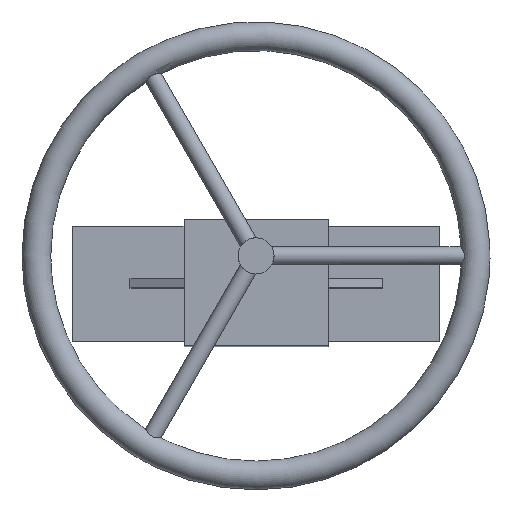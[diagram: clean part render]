
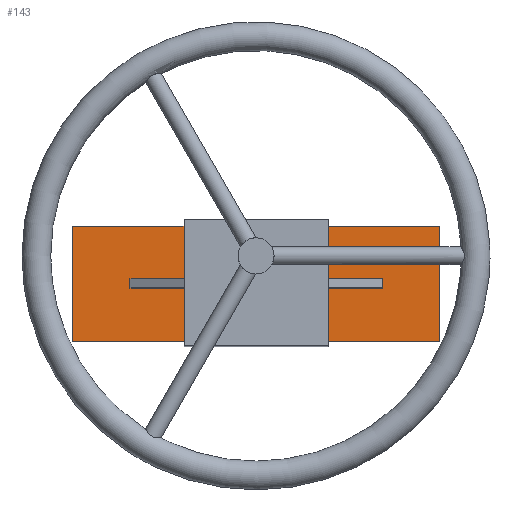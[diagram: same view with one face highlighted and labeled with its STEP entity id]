
A CAD part, top view. The second image highlights one B-rep face of the part: STEP entity #143.
In plain terms, the highlighted planar face has unit normal (0, 0, 1).
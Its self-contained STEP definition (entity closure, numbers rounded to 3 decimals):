
#143=ADVANCED_FACE('',(#968,#970,#972),#974,.T.);
#968=FACE_BOUND('',#969,.T.);
#969=EDGE_LOOP('',(#1689,#1690,#1691,#1692,#1693,#1694,#1695,#1696));
#970=FACE_BOUND('',#971,.T.);
#971=EDGE_LOOP('',(#1697,#1698,#1699,#1700));
#972=FACE_BOUND('',#973,.T.);
#973=EDGE_LOOP('',(#1701));
#974=PLANE('',#975);
#975=AXIS2_PLACEMENT_3D('',#976,#977,#978);
#976=CARTESIAN_POINT('',(0.,0.,155.));
#977=DIRECTION('',(0.,0.,1.));
#978=DIRECTION('',(1.,0.,0.));
#1689=ORIENTED_EDGE('',*,*,#2117,.F.);
#1690=ORIENTED_EDGE('',*,*,#2118,.T.);
#1691=ORIENTED_EDGE('',*,*,#2119,.T.);
#1692=ORIENTED_EDGE('',*,*,#2120,.T.);
#1693=ORIENTED_EDGE('',*,*,#2121,.F.);
#1694=ORIENTED_EDGE('',*,*,#2122,.T.);
#1695=ORIENTED_EDGE('',*,*,#2123,.T.);
#1696=ORIENTED_EDGE('',*,*,#2124,.T.);
#1697=ORIENTED_EDGE('',*,*,#2125,.F.);
#1698=ORIENTED_EDGE('',*,*,#2107,.F.);
#1699=ORIENTED_EDGE('',*,*,#2126,.F.);
#1700=ORIENTED_EDGE('',*,*,#2083,.F.);
#1701=ORIENTED_EDGE('',*,*,#2100,.F.);
#2083=EDGE_CURVE('',#2307,#2309,#2310,.T.);
#2100=EDGE_CURVE('',#2340,#2340,#2341,.F.);
#2107=EDGE_CURVE('',#2351,#2353,#2354,.F.);
#2117=EDGE_CURVE('',#2368,#2369,#2370,.T.);
#2118=EDGE_CURVE('',#2368,#2371,#2372,.T.);
#2119=EDGE_CURVE('',#2371,#2373,#2374,.T.);
#2120=EDGE_CURVE('',#2373,#2375,#2376,.T.);
#2121=EDGE_CURVE('',#2377,#2375,#2378,.T.);
#2122=EDGE_CURVE('',#2377,#2379,#2380,.T.);
#2123=EDGE_CURVE('',#2379,#2381,#2382,.T.);
#2124=EDGE_CURVE('',#2381,#2369,#2383,.T.);
#2125=EDGE_CURVE('',#2353,#2307,#2384,.T.);
#2126=EDGE_CURVE('',#2309,#2351,#2385,.T.);
#2307=VERTEX_POINT('',#2691);
#2309=VERTEX_POINT('',#2695);
#2310=LINE('',#2696,#2697);
#2340=VERTEX_POINT('',#2763);
#2341=CIRCLE('',#2764,10.);
#2351=VERTEX_POINT('',#2787);
#2353=VERTEX_POINT('',#2791);
#2354=LINE('',#2792,#2793);
#2368=VERTEX_POINT('',#2826);
#2369=VERTEX_POINT('',#2827);
#2370=LINE('',#2828,#2829);
#2371=VERTEX_POINT('',#2831);
#2372=LINE('',#2832,#2833);
#2373=VERTEX_POINT('',#2835);
#2374=LINE('',#2836,#2837);
#2375=VERTEX_POINT('',#2839);
#2376=LINE('',#2840,#2841);
#2377=VERTEX_POINT('',#2843);
#2378=LINE('',#2844,#2845);
#2379=VERTEX_POINT('',#2847);
#2380=LINE('',#2848,#2849);
#2381=VERTEX_POINT('',#2851);
#2382=LINE('',#2852,#2853);
#2383=LINE('',#2855,#2856);
#2384=LINE('',#2858,#2859);
#2385=LINE('',#2861,#2862);
#2691=CARTESIAN_POINT('',(-70.,-2.5,155.));
#2695=CARTESIAN_POINT('',(70.,-2.5,155.));
#2696=CARTESIAN_POINT('',(-70.,-2.5,155.));
#2697=VECTOR('',#2698,1.);
#2698=DIRECTION('',(1.,0.,0.));
#2763=CARTESIAN_POINT('',(0.,25.,155.));
#2764=AXIS2_PLACEMENT_3D('',#2765,#2766,#2767);
#2765=CARTESIAN_POINT('',(0.,15.,155.));
#2766=DIRECTION('',(-0.,-0.,-1.));
#2767=DIRECTION('',(0.,1.,0.));
#2787=CARTESIAN_POINT('',(70.,2.5,155.));
#2791=CARTESIAN_POINT('',(-70.,2.5,155.));
#2792=CARTESIAN_POINT('',(-70.,2.5,155.));
#2793=VECTOR('',#2794,1.);
#2794=DIRECTION('',(1.,0.,0.));
#2826=CARTESIAN_POINT('',(40.,-32.,155.));
#2827=CARTESIAN_POINT('',(-40.,-32.,155.));
#2828=CARTESIAN_POINT('',(40.,-32.,155.));
#2829=VECTOR('',#2830,1.);
#2830=DIRECTION('',(-1.,0.,0.));
#2831=CARTESIAN_POINT('',(102.,-32.,155.));
#2832=CARTESIAN_POINT('',(40.,-32.,155.));
#2833=VECTOR('',#2834,1.);
#2834=DIRECTION('',(1.,0.,0.));
#2835=CARTESIAN_POINT('',(102.,32.,155.));
#2836=CARTESIAN_POINT('',(102.,-32.,155.));
#2837=VECTOR('',#2838,1.);
#2838=DIRECTION('',(0.,1.,0.));
#2839=CARTESIAN_POINT('',(40.,32.,155.));
#2840=CARTESIAN_POINT('',(102.,32.,155.));
#2841=VECTOR('',#2842,1.);
#2842=DIRECTION('',(-1.,0.,0.));
#2843=CARTESIAN_POINT('',(-40.,32.,155.));
#2844=CARTESIAN_POINT('',(-40.,32.,155.));
#2845=VECTOR('',#2846,1.);
#2846=DIRECTION('',(1.,0.,0.));
#2847=CARTESIAN_POINT('',(-102.,32.,155.));
#2848=CARTESIAN_POINT('',(-40.,32.,155.));
#2849=VECTOR('',#2850,1.);
#2850=DIRECTION('',(-1.,0.,0.));
#2851=CARTESIAN_POINT('',(-102.,-32.,155.));
#2852=CARTESIAN_POINT('',(-102.,32.,155.));
#2853=VECTOR('',#2854,1.);
#2854=DIRECTION('',(0.,-1.,0.));
#2855=CARTESIAN_POINT('',(-102.,-32.,155.));
#2856=VECTOR('',#2857,1.);
#2857=DIRECTION('',(1.,0.,0.));
#2858=CARTESIAN_POINT('',(-70.,2.5,155.));
#2859=VECTOR('',#2860,1.);
#2860=DIRECTION('',(0.,-1.,0.));
#2861=CARTESIAN_POINT('',(70.,-2.5,155.));
#2862=VECTOR('',#2863,1.);
#2863=DIRECTION('',(0.,1.,0.));
